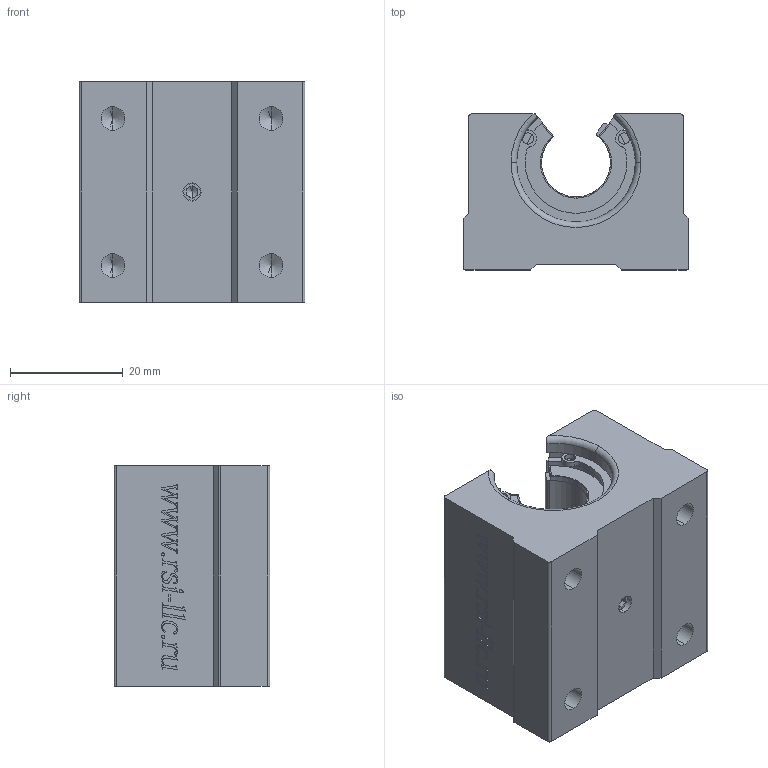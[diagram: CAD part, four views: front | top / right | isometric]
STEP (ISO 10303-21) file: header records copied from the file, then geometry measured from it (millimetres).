
FILE_DESCRIPTION (( 'STEP AP214' ), '1' );
FILE_NAME ('SBR12UU.STEP', '2020-09-03T11:11:19', ( '' ), ( '' ), 'SwSTEP 2.0', 'SolidWorks 2018', '' );
FILE_SCHEMA (( 'AUTOMOTIVE_DESIGN' ));
Length unit declared in the file: millimetre
Products named in the file (6): SBR12UU; SBR12UU-05; SBR12UU-04; SBR12UU-03; SBR12UU-02; SBR12UU-01
Assembly tree (7 placements, depth 2):
  SBR12UU
    SBR12UU-01
    SBR12UU-02
    SBR12UU-03
    SBR12UU-04  x2
    SBR12UU-05  x2
Bounding box: 40 x 27.6 x 39 mm (x, y, z)
Volume: 31921 mm3; surface area: 16441.8 mm2
Topology: 8 solids, 8 shells, 467 faces, 1283 edges, 845 vertices
Faces by surface type: plane 218, cylinder 120, bspline 108, cone 15, torus 6
Entity records: 21234 total; most frequent: CARTESIAN_POINT 7604, ORIENTED_EDGE 2360, DIRECTION 1810, EDGE_CURVE 1180, VERTEX_POINT 783, LINE 748, VECTOR 748, AXIS2_PLACEMENT_3D 531
